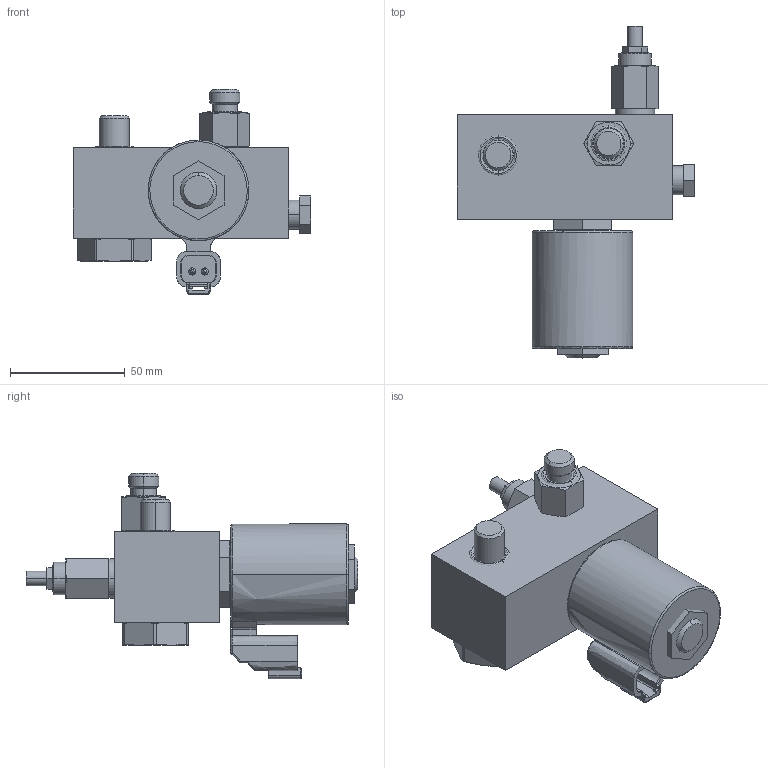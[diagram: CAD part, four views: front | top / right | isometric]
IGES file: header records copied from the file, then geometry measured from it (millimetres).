
Start section:  PTC IGES file: 24m478-en-l.igs
Global section: file name: 24m478-en-l.igs; native system: Creo Parametric by PTC Inc.; preprocessor: 2021072; author: qtmwp1; organization: Unknown; date: 20231107.143009; units: inch
Bounding box: 103.5 x 144.86 x 89.59 mm (x, y, z)
Surface area: 47764.5 mm2 (no closed solid volume)
Topology: 0 solids, 0 shells, 220 faces, 1092 edges, 1092 vertices
Faces by surface type: revolution 114, bspline 106
